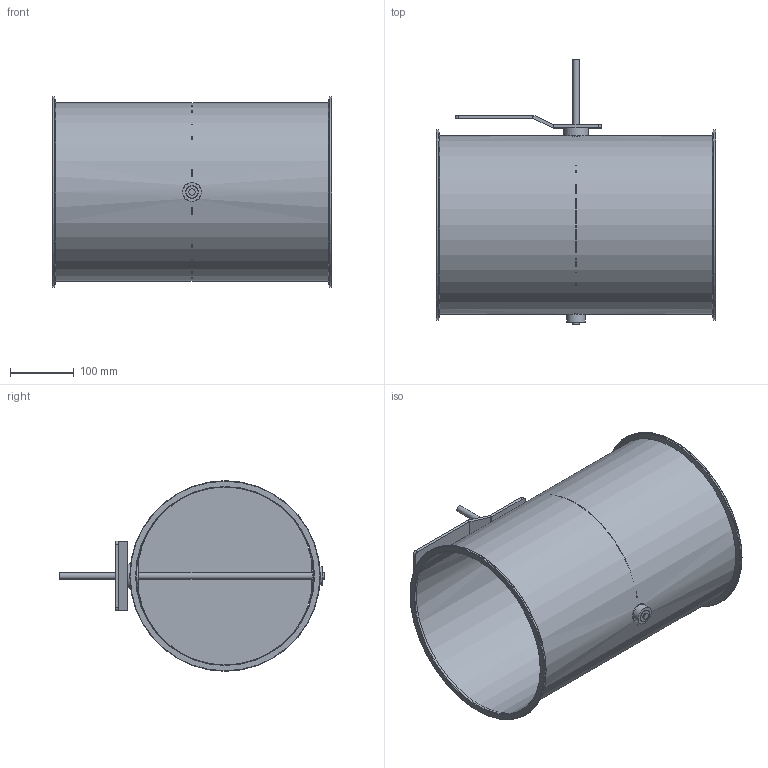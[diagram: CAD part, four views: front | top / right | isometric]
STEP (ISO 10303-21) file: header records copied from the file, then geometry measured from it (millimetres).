
FILE_DESCRIPTION(/* description */ (''),/* implementation_level */ '2;1');
FILE_NAME(/* name */ 'EA104-80B__280_L440_Belimo_Typen_NF_SF.stp',/* time_stamp */ '2017-12-06T15:05:00+01:00',/* author */ (''),/* organization */ (''),/* preprocessor_version */ 'ST-DEVELOPER v11',/* originating_system */ 'SIEMENS UGS NX 6.0',/* authorisation */ '');
FILE_SCHEMA (('CONFIG_CONTROL_DESIGN'));
Length unit declared in the file: millimetre
Products named in the file (1): gars18E2j2b5
Bounding box: 440 x 416 x 300 mm (x, y, z)
Volume: 633162.4 mm3; surface area: 1009742.8 mm2
Topology: 8 solids, 8 shells, 76 faces, 158 edges, 100 vertices
Faces by surface type: plane 36, cylinder 32, torus 6, cone 2
Full cylindrical faces by diameter (mm): 4.1 x4, 10 x3, 19 x3, 19.85 x2, 20 x2, 29 x1, 30 x2, 39 x1, 280 x1, 281.6 x1, 300 x2
Entity records: 1960 total; most frequent: CARTESIAN_POINT 353, DIRECTION 334, ORIENTED_EDGE 236, AXIS2_PLACEMENT_3D 143, EDGE_LOOP 132, EDGE_CURVE 118, FACE_BOUND 102, VERTEX_POINT 90
